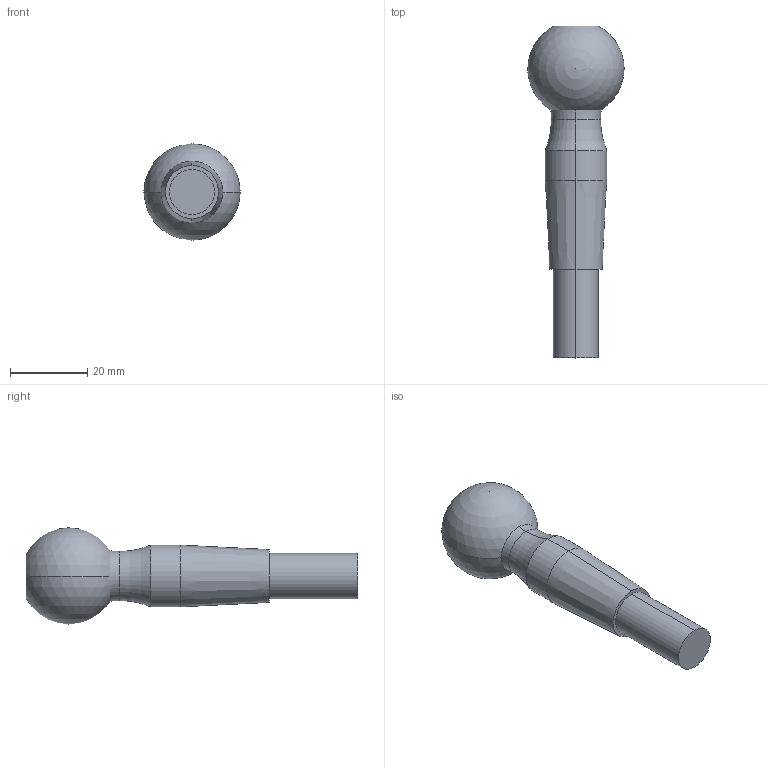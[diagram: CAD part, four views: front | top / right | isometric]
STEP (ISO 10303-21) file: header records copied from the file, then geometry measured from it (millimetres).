
FILE_DESCRIPTION (( 'STEP AP203' ), '1' );
FILE_NAME ('Pacific AC405010 stud.STEP', '2014-07-21T14:47:17', ( 'Marty' ), ( 'LLA' ), 'SwSTEP 2.0', 'SolidWorks 2002296', '' );
FILE_SCHEMA (( 'CONFIG_CONTROL_DESIGN' ));
Length unit declared in the file: inch
Products named in the file (1): Pacific AC405010 stud
Bounding box: 24.96 x 86.03 x 24.97 mm (x, y, z)
Volume: 17492.3 mm3; surface area: 4722.3 mm2
Topology: 1 solids, 1 shells, 15 faces, 35 edges, 21 vertices
Faces by surface type: torus 4, cylinder 4, plane 3, sphere 2, cone 2
Entity records: 479 total; most frequent: DIRECTION 86, CARTESIAN_POINT 64, ORIENTED_EDGE 60, AXIS2_PLACEMENT_3D 40, EDGE_CURVE 30, CIRCLE 24, VERTEX_POINT 18, EDGE_LOOP 16
